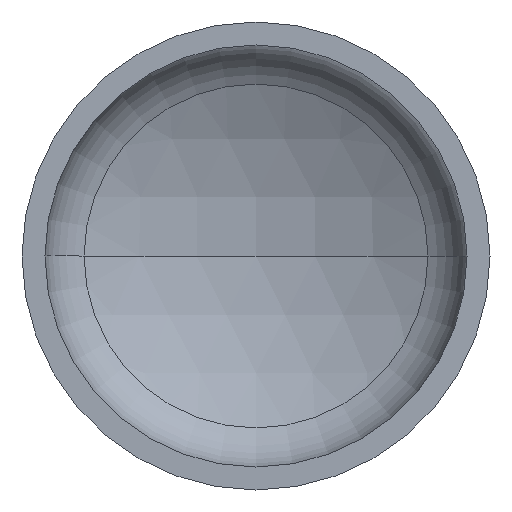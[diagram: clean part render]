
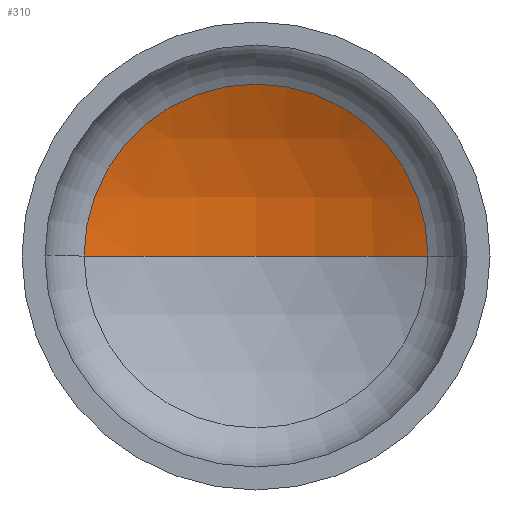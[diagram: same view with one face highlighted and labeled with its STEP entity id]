
A CAD part, front view. The second image highlights one B-rep face of the part: STEP entity #310.
In plain terms, the highlighted spherical face has radius 1760 mm.
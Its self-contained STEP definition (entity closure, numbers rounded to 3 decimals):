
#4 = AXIS2_PLACEMENT_3D ( 'NONE', #140, #400, #147 ) ;
#5 = DIRECTION ( 'NONE',  ( -1., 0., 0. ) ) ;
#12 = DIRECTION ( 'NONE',  ( 0., 0., -1. ) ) ;
#18 = CARTESIAN_POINT ( 'NONE',  ( 0., -1186.466, 0. ) ) ;
#20 = EDGE_LOOP ( 'NONE', ( #59, #100, #46 ) ) ;
#31 = AXIS2_PLACEMENT_3D ( 'NONE', #252, #381, #398 ) ;
#32 = AXIS2_PLACEMENT_3D ( 'NONE', #18, #12, #5 ) ;
#34 = AXIS2_PLACEMENT_3D ( 'NONE', #318, #174, #340 ) ;
#46 = ORIENTED_EDGE ( 'NONE', *, *, #103, .T. ) ;
#52 = VERTEX_POINT ( 'NONE', #255 ) ;
#59 = ORIENTED_EDGE ( 'NONE', *, *, #109, .F. ) ;
#62 = CARTESIAN_POINT ( 'NONE',  ( 808.113, 377.041, 0. ) ) ;
#100 = ORIENTED_EDGE ( 'NONE', *, *, #107, .T. ) ;
#103 = EDGE_CURVE ( 'NONE', #183, #52, #394, .T. ) ;
#107 = EDGE_CURVE ( 'NONE', #133, #183, #159, .T. ) ;
#109 = EDGE_CURVE ( 'NONE', #133, #52, #277, .T. ) ;
#133 = VERTEX_POINT ( 'NONE', #225 ) ;
#140 = CARTESIAN_POINT ( 'NONE',  ( 0., -1186.466, 0. ) ) ;
#147 = DIRECTION ( 'NONE',  ( -1., 0., 0. ) ) ;
#159 = CIRCLE ( 'NONE', #32, 1760. ) ;
#174 = DIRECTION ( 'NONE',  ( 0., -1., 0. ) ) ;
#183 = VERTEX_POINT ( 'NONE', #62 ) ;
#191 = SPHERICAL_SURFACE ( 'NONE', #4, 1760. ) ;
#225 = CARTESIAN_POINT ( 'NONE',  ( 0., 573.534, 0. ) ) ;
#252 = CARTESIAN_POINT ( 'NONE',  ( 0., -1186.466, 0. ) ) ;
#255 = CARTESIAN_POINT ( 'NONE',  ( -808.113, 377.041, 0. ) ) ;
#277 = CIRCLE ( 'NONE', #31, 1760. ) ;
#310 = ADVANCED_FACE ( 'NONE', ( #320 ), #191, .F. ) ;
#318 = CARTESIAN_POINT ( 'NONE',  ( 0., 377.041, 0. ) ) ;
#320 = FACE_OUTER_BOUND ( 'NONE', #20, .T. ) ;
#340 = DIRECTION ( 'NONE',  ( 1., 0., 0. ) ) ;
#381 = DIRECTION ( 'NONE',  ( 0., 0., 1. ) ) ;
#394 = CIRCLE ( 'NONE', #34, 808.113 ) ;
#398 = DIRECTION ( 'NONE',  ( 1., 0., 0. ) ) ;
#400 = DIRECTION ( 'NONE',  ( 0., 0., -1. ) ) ;
